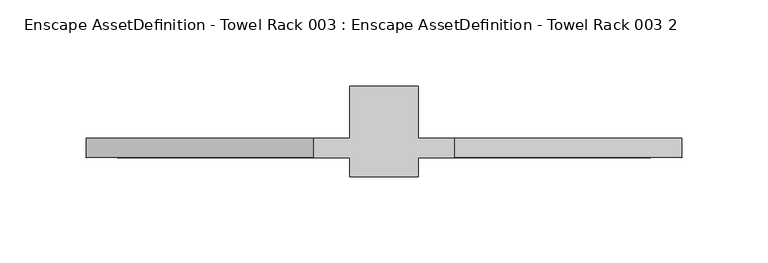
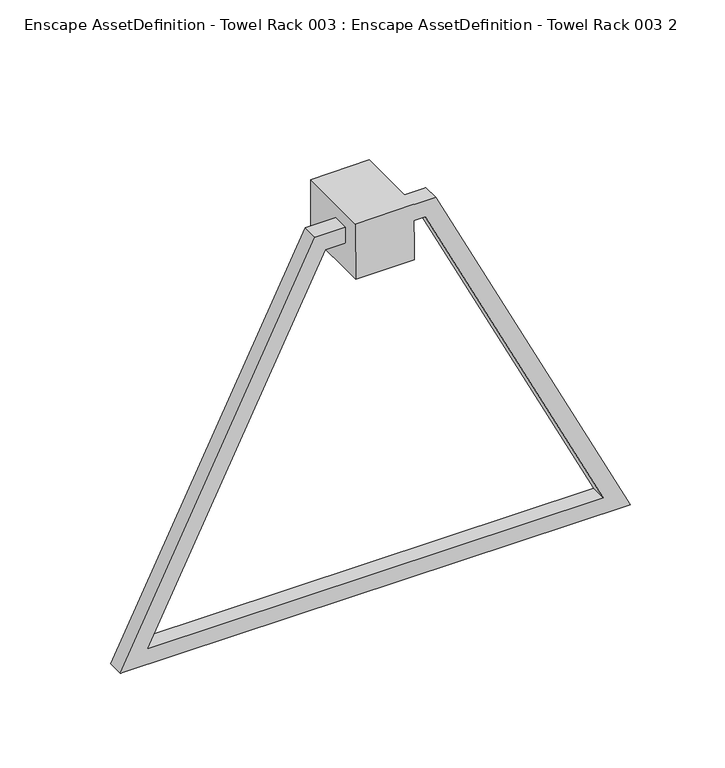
"""IFC4 building model written with IfcOpenShell, lengths in millimetres: geographic element geometry, Enscape AssetDefinition - Towel Rack 003 : Enscape AssetDefinition - Towel Rack 003 2."""

import ifcopenshell
import ifcopenshell.guid

model = None  # the IFC model being written
_history = None  # IfcOwnerHistory: only IFC2X3 demands one
_inside = {}  # id of a spatial element -> (the spatial element, [elements in it])
_under = {}  # id of a project, library or spatial element -> (it, [spatial elements below it])
_declared = {}  # id of a project -> (the project, [libraries it declares])
_typed = {}  # id of a type object -> (the type object, [elements of that type])
_made_of = {}  # id of a material, layer set ... -> (it, [elements and type objects made of it])


def new_model(schema):
    """Start an empty IFC model of exactly this schema.

    Asked for "IFC4X3", IfcOpenShell would pick the latest addendum, in which some entities
    have other attributes; the version numbers below select the first issue.
    IFC2X3 requires an IfcOwnerHistory on every rooted entity: one is made here for all.
    """
    global model, _history
    if schema == "IFC4X3":
        model = ifcopenshell.file(schema_version=(4, 3, 0, 0))
    else:
        model = ifcopenshell.file(schema=schema)
    _inside.clear()
    _under.clear()
    _declared.clear()
    _typed.clear()
    _made_of.clear()
    _history = None
    if model.schema == "IFC2X3":
        org = make("IfcOrganization", Name="unknown")
        user = make(
            "IfcPersonAndOrganization",
            ThePerson=make("IfcPerson", FamilyName="unknown"),
            TheOrganization=org,
        )
        app = make(
            "IfcApplication",
            ApplicationDeveloper=org,
            Version="unknown",
            ApplicationFullName="unknown",
            ApplicationIdentifier="unknown",
        )
        _history = make(
            "IfcOwnerHistory",
            OwningUser=user,
            OwningApplication=app,
            ChangeAction="ADDED",
            CreationDate=0,
        )
    return model


def make(cls, **values):
    """One entity of the class cls with the attributes given. An attribute that is None is left unset."""
    return model.create_entity(
        cls, **{name: value for name, value in values.items() if value is not None}
    )


def rooted(cls, **values):
    """An entity with a GlobalId (a new one), such as an element, a storey or a relation."""
    return make(cls, GlobalId=ifcopenshell.guid.new(), OwnerHistory=_history, **values)


def si_unit(unit_type, name, prefix=None):
    """IfcSIUnit, for example si_unit("LENGTHUNIT", "METRE", prefix="MILLI")."""
    return make("IfcSIUnit", UnitType=unit_type, Prefix=prefix, Name=name)


def assignment(units):
    """IfcUnitAssignment: the units of a project."""
    return None if units is None else make("IfcUnitAssignment", Units=units)


def point(xyz):
    """IfcCartesianPoint."""
    return None if xyz is None else make("IfcCartesianPoint", Coordinates=xyz)


def direction(xyz):
    """IfcDirection."""
    return None if xyz is None else make("IfcDirection", DirectionRatios=xyz)


def frame(location, z_axis=None, x_axis=None):
    """IfcAxis2Placement3D, a coordinate frame: its origin and axes. An axis left out is left unset."""
    return make(
        "IfcAxis2Placement3D",
        Location=point(location),
        Axis=direction(z_axis),
        RefDirection=direction(x_axis),
    )


def origin():
    """The frame at (0, 0, 0) with its axes left unset."""
    return frame((0.0, 0.0, 0.0))


def place(relative_to, where):
    """IfcLocalPlacement: puts the frame where relative to a parent placement (None: the world)."""
    return make(
        "IfcLocalPlacement", PlacementRelTo=relative_to, RelativePlacement=where
    )


def context(
    kind, dimensions, precision=None, world=None, true_north=None, identifier=None
):
    """IfcGeometricRepresentationContext, for example the 3D "Model" context."""
    return make(
        "IfcGeometricRepresentationContext",
        ContextIdentifier=identifier,
        ContextType=kind,
        CoordinateSpaceDimension=dimensions,
        Precision=precision,
        WorldCoordinateSystem=world,
        TrueNorth=true_north,
    )


def project(units=None, contexts=None):
    """IfcProject with its units and contexts."""
    return rooted(
        "IfcProject",
        Name="project",
        RepresentationContexts=contexts,
        UnitsInContext=assignment(units),
    )


def spatial(cls, under=None, at=None, **own):
    """A site, building, storey or space (cls), placed at a placement, below another one or the project."""
    s = rooted(cls, ObjectPlacement=at, **own)
    if under is not None:
        _under.setdefault(under.id(), (under, []))[1].append(s)
    return s


def point_list(points):
    """IfcCartesianPointList2D or 3D."""
    cls = (
        "IfcCartesianPointList2D" if len(points[0]) == 2 else "IfcCartesianPointList3D"
    )
    return make(cls, CoordList=points)


def triangles(points, corners, closed=None, point_numbers=None):
    """IfcTriangulatedFaceSet: each triangle names its three corners, points numbered from 1."""
    return make(
        "IfcTriangulatedFaceSet",
        Coordinates=point_list(points),
        Closed=closed,
        CoordIndex=corners,
        PnIndex=point_numbers,
    )


def shape(context_of_items, identifier, shape_type, items):
    """IfcShapeRepresentation: the items that make up one representation, for example the "Body"."""
    return make(
        "IfcShapeRepresentation",
        ContextOfItems=context_of_items,
        RepresentationIdentifier=identifier,
        RepresentationType=shape_type,
        Items=items,
    )


def source(mapping_origin, context_of_items, identifier, shape_type, items):
    """IfcRepresentationMap: a shape defined once, which mapped items show again and again."""
    return make(
        "IfcRepresentationMap",
        MappingOrigin=mapping_origin,
        MappedRepresentation=shape(context_of_items, identifier, shape_type, items),
    )


def transform(
    local_origin,
    x_axis=None,
    y_axis=None,
    z_axis=None,
    scale=None,
    scale2=None,
    scale3=None,
    uniform=True,
):
    """IfcCartesianTransformationOperator3D, or its non-uniform kind. x_axis, y_axis, z_axis: its Axis1, 2, 3."""
    if uniform:
        return make(
            "IfcCartesianTransformationOperator3D",
            Axis1=direction(x_axis),
            Axis2=direction(y_axis),
            LocalOrigin=point(local_origin),
            Scale=scale,
            Axis3=direction(z_axis),
        )
    return make(
        "IfcCartesianTransformationOperator3DnonUniform",
        Axis1=direction(x_axis),
        Axis2=direction(y_axis),
        LocalOrigin=point(local_origin),
        Scale=scale,
        Axis3=direction(z_axis),
        Scale2=scale2,
        Scale3=scale3,
    )


def mapped(mapping_source, mapping_target):
    """IfcMappedItem: shows the shape of a source again, moved by a transform."""
    return make(
        "IfcMappedItem", MappingSource=mapping_source, MappingTarget=mapping_target
    )


def made_of(thing, what):
    """Note that an element or type object is made of a material, layer set ...; save() writes the relation."""
    if what is not None:
        _made_of.setdefault(what.id(), (what, []))[1].append(thing)
    return thing


def element(
    cls,
    number,
    at=None,
    inside=None,
    cuts=None,
    type_object=None,
    material=None,
    context=None,
    identifier="Body",
    shape_type=None,
    held_by="IfcProductDefinitionShape",
    body=None,
    shapes=None,
    **own,
):
    """One element of the class cls, such as IfcWall. Its Tag is "e" and its number.

    at: its placement. inside: the storey or other place that contains it. cuts: it is an
    opening in that element (IfcRelVoidsElement). A single representation is given by context,
    identifier, shape_type and body (its items); several are given by shapes. held_by: the class
    of the entity that holds the representations. save() writes the other relations.
    """
    e = rooted(cls, Tag="e%d" % number, ObjectPlacement=at, **own)
    if body is not None:
        shapes = [shape(context, identifier, shape_type, body)]
    if shapes is not None:
        e.Representation = make(held_by, Representations=shapes)
    if inside is not None:
        _inside.setdefault(inside.id(), (inside, []))[1].append(e)
    if cuts is not None:
        rooted(
            "IfcRelVoidsElement", RelatingBuildingElement=cuts, RelatedOpeningElement=e
        )
    if type_object is not None:
        _typed.setdefault(type_object.id(), (type_object, []))[1].append(e)
    return made_of(e, material)


def aggregate(whole, parts):
    """IfcRelAggregates: a whole, such as a stair, and the parts it consists of."""
    return rooted("IfcRelAggregates", RelatingObject=whole, RelatedObjects=parts)


def save(model, path):
    """Write the relations noted so far, then the file.

    IfcRelAggregates (storeys below a building ...), IfcRelContainedInSpatialStructure (elements
    in a storey), IfcRelDefinesByType, IfcRelAssociatesMaterial and IfcRelDeclares: one each for
    every whole, place, type object, material and project.
    """
    for whole, parts in _under.values():
        aggregate(whole, parts)
    for where, things in _inside.values():
        rooted(
            "IfcRelContainedInSpatialStructure",
            RelatedElements=things,
            RelatingStructure=where,
        )
    for kind, things in _typed.values():
        rooted("IfcRelDefinesByType", RelatedObjects=things, RelatingType=kind)
    for what, things in _made_of.values():
        rooted("IfcRelAssociatesMaterial", RelatedObjects=things, RelatingMaterial=what)
    for by, libraries in _declared.values():
        rooted("IfcRelDeclares", RelatingContext=by, RelatedDefinitions=libraries)
    model.write(path)


def enscape_assetdefinition_towel_rack_003_enscape_52cf1950(model_context):
    return source(origin(), model_context, "Body", "Tessellation", [
        triangles([(-40.9065329, -29.1554038, 10.7976717), (-172.8603609, -29.1554038, -255.6738017), (40.9065329, -40.4166646, 10.7976717), (172.8603609, -40.4166646, -255.6738017), (172.8603609, -29.1554038, -255.6738017), (40.9065329, -29.1554038, 10.7976717), (33.9170408, -40.4166646, -0.4635885), (154.7184631, -40.4166646, -244.4125341), (154.7184631, -29.1554038, -244.4125341), (33.9170408, -29.1554038, -0.4635885), (-33.9170408, -29.1554038, -0.4635885), (-40.9065329, -40.4166646, 10.7976717), (-172.8603609, -40.4166646, -255.6738017), (-154.7184631, -40.4166646, -244.4125341), (-33.9170408, -40.4166646, -0.4635885), (-154.7184631, -29.1554038, -244.4125341), (-20.0000011, 0.9647147, 19.8141885), (-19.8141885, 0.9647147, -20.0000011), (19.8141885, 0.9647147, 20.0000011), (19.8141885, -51.587835, 20.0000011), (20.0000011, 0.9647147, -19.8141885), (-20.0000011, -51.587835, 19.8141885), (20.0000011, -51.587835, -19.8141885), (-19.8141885, -51.587835, -20.0000011)], [[24, 23, 20], [19, 20, 23], [18, 24, 22], [21, 23, 24], [19, 17, 22], [19, 21, 18], [24, 20, 22], [19, 23, 21], [18, 22, 17], [21, 24, 18], [19, 22, 20], [19, 18, 17], [1, 11, 16], [15, 16, 11], [15, 14, 16], [12, 13, 14], [12, 14, 15], [12, 15, 7], [10, 7, 15], [1, 10, 11], [10, 15, 11], [1, 6, 10], [12, 6, 1], [6, 9, 10], [9, 7, 10], [16, 14, 8], [9, 8, 7], [13, 8, 14], [16, 8, 9], [3, 7, 8], [12, 3, 6], [12, 7, 3], [6, 5, 9], [3, 5, 6], [13, 4, 8], [3, 4, 5], [3, 8, 4], [2, 16, 9], [4, 13, 2], [2, 13, 12], [1, 16, 2], [2, 9, 5], [4, 2, 5], [2, 12, 1]]),
    ])


if __name__ == "__main__":
    model = new_model("IFC4")
    model_context = context("Model", 3, world=origin())
    ifc_project = project(units=[si_unit("LENGTHUNIT", "METRE", prefix="MILLI")], contexts=[model_context])
    site = spatial("IfcSite", under=ifc_project)
    building = spatial("IfcBuilding", under=site)
    placement = place(None, origin())
    enscape_assetdefinition_towel_rack_003_enscape_shape = enscape_assetdefinition_towel_rack_003_enscape_52cf1950(model_context)
    element("IfcGeographicElement", 1, ObjectType="Enscape AssetDefinition - Towel Rack 003 : Enscape AssetDefinition - Towel Rack 003 2", at=placement, inside=building, context=model_context, shape_type="MappedRepresentation", body=[
        mapped(enscape_assetdefinition_towel_rack_003_enscape_shape, transform((0.0, 0.0, 0.0), x_axis=(1.0, 0.0, 0.0), y_axis=(0.0, 1.0, 0.0), z_axis=(0.0, 0.0, 1.0))),
    ])
    save(model, "model.ifc")
